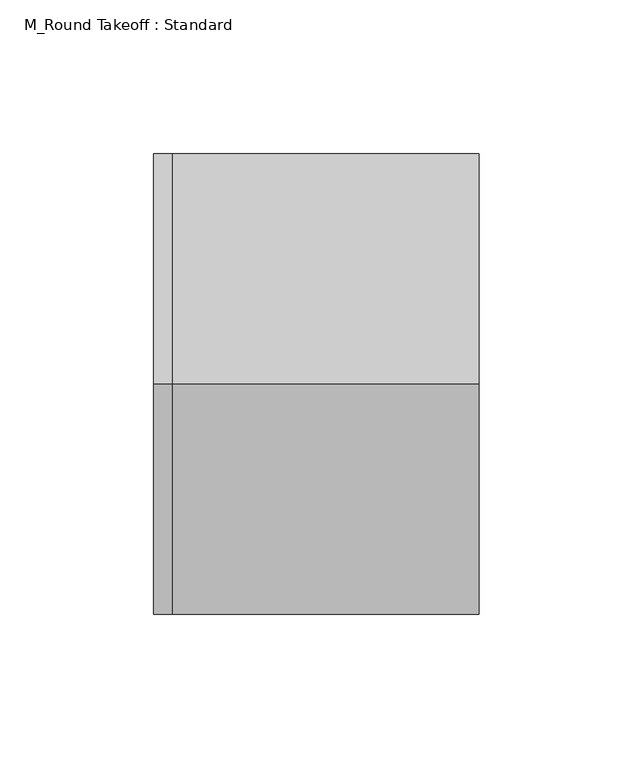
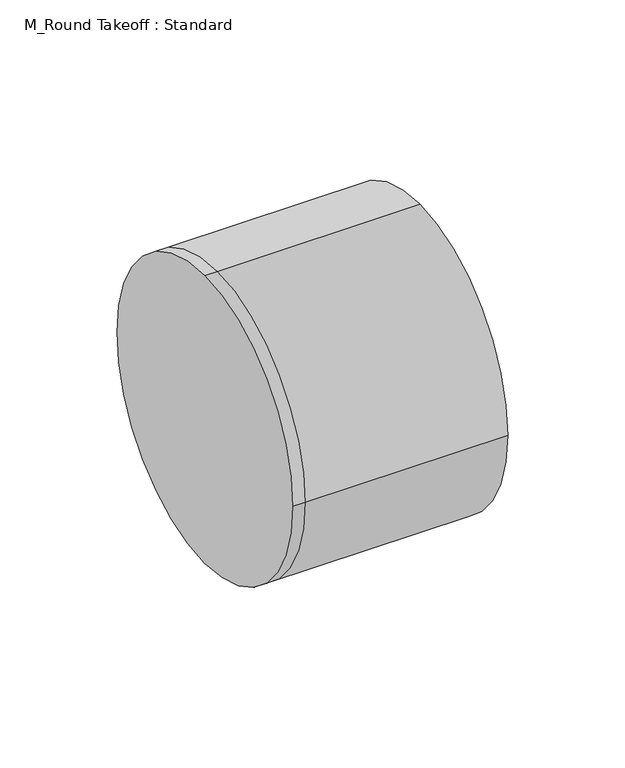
"""IFC4 building model written with IfcOpenShell, lengths in millimetres: duct fitting geometry, M_Round Takeoff : Standard."""

from ifc_helpers import new_model, si_unit, frame, origin, place, context, project, spatial, circle_curve, source, transform, mapped, element, save
from ifc_brep_helpers import plane_surface, cylinder_surface, advanced_brep


def m_round_takeoff_standard_2721f8a4(model_context):
    return source(origin(), model_context, "Body", "AdvancedBrep", [
        advanced_brep(
        [(-6.096, 0.0, 75.0), (-6.096, 75.0, 0.0), (-6.096, 0.0, -75.0), (-6.096, -75.0, 0.0), (0.0, 0.0, 75.0), (0.0, 75.0, 0.0), (0.0, 0.0, -75.0), (0.0, -75.0, 0.0), (100.0, 0.0, 75.0), (100.0, -75.0, 0.0), (100.0, 0.0, -75.0), (100.0, 75.0, 0.0)],
        [
            (0, 1, circle_curve(frame((-6.096, 0.0, 0.0), z_axis=(-1.0, 0.0, 0.0), x_axis=(0.0, 1.0, 0.0)), 75.0)),
            (1, 2, circle_curve(frame((-6.096, 0.0, 0.0), z_axis=(-1.0, 0.0, 0.0), x_axis=(0.0, 1.0, 0.0)), 75.0)),
            (2, 3, circle_curve(frame((-6.096, 0.0, 0.0), z_axis=(-1.0, 0.0, 0.0), x_axis=(0.0, 1.0, 0.0)), 75.0)),
            (3, 0, circle_curve(frame((-6.096, 0.0, 0.0), z_axis=(-1.0, 0.0, 0.0), x_axis=(0.0, 1.0, 0.0)), 75.0)),
            (0, 4),
            (4, 5, circle_curve(frame((0.0, 0.0, 0.0), z_axis=(-1.0, 0.0, 0.0), x_axis=(0.0, 1.0, 0.0)), 75.0)),
            (5, 1),
            (5, 6, circle_curve(frame((0.0, 0.0, 0.0), z_axis=(-1.0, 0.0, 0.0), x_axis=(0.0, 1.0, 0.0)), 75.0)),
            (6, 2),
            (6, 7, circle_curve(frame((0.0, 0.0, 0.0), z_axis=(-1.0, 0.0, 0.0), x_axis=(0.0, 1.0, 0.0)), 75.0)),
            (7, 3),
            (7, 4, circle_curve(frame((0.0, 0.0, 0.0), z_axis=(-1.0, 0.0, 0.0), x_axis=(0.0, 1.0, 0.0)), 75.0)),
            (8, 9, circle_curve(frame((100.0, 0.0, 0.0), z_axis=(1.0, 0.0, 0.0), x_axis=(0.0, 1.0, 0.0)), 75.0)),
            (9, 10, circle_curve(frame((100.0, 0.0, 0.0), z_axis=(1.0, 0.0, 0.0), x_axis=(0.0, 1.0, 0.0)), 75.0)),
            (10, 11, circle_curve(frame((100.0, 0.0, 0.0), z_axis=(1.0, 0.0, 0.0), x_axis=(0.0, 1.0, 0.0)), 75.0)),
            (11, 8, circle_curve(frame((100.0, 0.0, 0.0), z_axis=(1.0, 0.0, 0.0), x_axis=(0.0, 1.0, 0.0)), 75.0)),
            (11, 5),
            (4, 8),
            (10, 6),
            (9, 7),
        ],
        [
            plane_surface(frame((-6.096, 0.0, 0.0), z_axis=(-1.0, 0.0, 0.0), x_axis=(0.0, 0.0, 1.0))),
            cylinder_surface(frame((-6.096, 0.0, 0.0), z_axis=(-1.0, 0.0, 0.0), x_axis=(0.0, 1.0, 0.0)), 75.0),
            plane_surface(frame((100.0, 0.0, 0.0), z_axis=(1.0, 0.0, 0.0), x_axis=(0.0, 0.0, 1.0))),
            cylinder_surface(frame((0.0, 0.0, 0.0), z_axis=(-1.0, 0.0, 0.0), x_axis=(0.0, 1.0, 0.0)), 75.0),
        ],
        [
            (0, [[1, 2, 3, 4]]),
            (1, [[-1, 5, 6, 7]]),
            (1, [[-2, -7, 8, 9]]),
            (1, [[-3, -9, 10, 11]]),
            (1, [[-4, -11, 12, -5]]),
            (2, [[13, 14, 15, 16]]),
            (3, [[-16, 17, -6, 18]]),
            (3, [[-15, 19, -8, -17]]),
            (3, [[-14, 20, -10, -19]]),
            (3, [[-13, -18, -12, -20]]),
        ],
    ),
        advanced_brep(
        [(100.0, 0.0, 75.0), (100.0, -75.0, 0.0), (100.0, 0.0, -75.0), (100.0, 75.0, 0.0), (0.0, 75.0, 0.0), (0.0, 0.0, 75.0), (0.0, 0.0, -75.0), (0.0, -75.0, 0.0), (-6.096, 0.0, 75.0), (-6.096, 75.0, 0.0), (-6.096, 0.0, -75.0), (-6.096, -75.0, 0.0)],
        [
            (0, 1, circle_curve(frame((100.0, 0.0, 0.0), z_axis=(1.0, 0.0, 0.0), x_axis=(0.0, 1.0, 0.0)), 75.0)),
            (1, 2, circle_curve(frame((100.0, 0.0, 0.0), z_axis=(1.0, 0.0, 0.0), x_axis=(0.0, 1.0, 0.0)), 75.0)),
            (2, 3, circle_curve(frame((100.0, 0.0, 0.0), z_axis=(1.0, 0.0, 0.0), x_axis=(0.0, 1.0, 0.0)), 75.0)),
            (3, 0, circle_curve(frame((100.0, 0.0, 0.0), z_axis=(1.0, 0.0, 0.0), x_axis=(0.0, 1.0, 0.0)), 75.0)),
            (3, 4),
            (4, 5, circle_curve(frame((0.0, 0.0, 0.0), z_axis=(1.0, 0.0, 0.0), x_axis=(0.0, 1.0, 0.0)), 75.0)),
            (5, 0),
            (2, 6),
            (6, 4, circle_curve(frame((0.0, 0.0, 0.0), z_axis=(1.0, 0.0, 0.0), x_axis=(0.0, 1.0, 0.0)), 75.0)),
            (1, 7),
            (7, 6, circle_curve(frame((0.0, 0.0, 0.0), z_axis=(1.0, 0.0, 0.0), x_axis=(0.0, 1.0, 0.0)), 75.0)),
            (5, 7, circle_curve(frame((0.0, 0.0, 0.0), z_axis=(1.0, 0.0, 0.0), x_axis=(0.0, 1.0, 0.0)), 75.0)),
            (8, 9, circle_curve(frame((-6.096, 0.0, 0.0), z_axis=(-1.0, 0.0, 0.0), x_axis=(0.0, 1.0, 0.0)), 75.0)),
            (9, 10, circle_curve(frame((-6.096, 0.0, 0.0), z_axis=(-1.0, 0.0, 0.0), x_axis=(0.0, 1.0, 0.0)), 75.0)),
            (10, 11, circle_curve(frame((-6.096, 0.0, 0.0), z_axis=(-1.0, 0.0, 0.0), x_axis=(0.0, 1.0, 0.0)), 75.0)),
            (11, 8, circle_curve(frame((-6.096, 0.0, 0.0), z_axis=(-1.0, 0.0, 0.0), x_axis=(0.0, 1.0, 0.0)), 75.0)),
            (8, 5),
            (4, 9),
            (6, 10),
            (7, 11),
        ],
        [
            plane_surface(frame((100.0, 0.0, 0.0), z_axis=(1.0, 0.0, 0.0), x_axis=(0.0, 0.0, 1.0))),
            cylinder_surface(frame((0.0, 0.0, 0.0), z_axis=(-1.0, 0.0, 0.0), x_axis=(0.0, 1.0, 0.0)), 75.0),
            plane_surface(frame((-6.096, 0.0, 0.0), z_axis=(-1.0, 0.0, 0.0), x_axis=(0.0, 0.0, 1.0))),
            cylinder_surface(frame((-6.096, 0.0, 0.0), z_axis=(-1.0, 0.0, 0.0), x_axis=(0.0, 1.0, 0.0)), 75.0),
        ],
        [
            (0, [[1, 2, 3, 4]]),
            (1, [[-4, 5, 6, 7]]),
            (1, [[-3, 8, 9, -5]]),
            (1, [[-2, 10, 11, -8]]),
            (1, [[-1, -7, 12, -10]]),
            (2, [[13, 14, 15, 16]]),
            (3, [[-13, 17, -6, 18]]),
            (3, [[-14, -18, -9, 19]]),
            (3, [[-15, -19, -11, 20]]),
            (3, [[-16, -20, -12, -17]]),
        ],
    ),
        advanced_brep(
        [(-6.096, 0.0, 75.0), (-6.096, 75.0, 0.0), (-6.096, 0.0, -75.0), (-6.096, -75.0, 0.0), (0.0, 0.0, 75.0), (0.0, 75.0, 0.0), (0.0, 0.0, -75.0), (0.0, -75.0, 0.0), (100.0, 0.0, 75.0), (100.0, -75.0, 0.0), (100.0, 0.0, -75.0), (100.0, 75.0, 0.0)],
        [
            (0, 1, circle_curve(frame((-6.096, 0.0, 0.0), z_axis=(-1.0, 0.0, 0.0), x_axis=(0.0, 1.0, 0.0)), 75.0)),
            (1, 2, circle_curve(frame((-6.096, 0.0, 0.0), z_axis=(-1.0, 0.0, 0.0), x_axis=(0.0, 1.0, 0.0)), 75.0)),
            (2, 3, circle_curve(frame((-6.096, 0.0, 0.0), z_axis=(-1.0, 0.0, 0.0), x_axis=(0.0, 1.0, 0.0)), 75.0)),
            (3, 0, circle_curve(frame((-6.096, 0.0, 0.0), z_axis=(-1.0, 0.0, 0.0), x_axis=(0.0, 1.0, 0.0)), 75.0)),
            (0, 4),
            (4, 5, circle_curve(frame((0.0, 0.0, 0.0), z_axis=(-1.0, 0.0, 0.0), x_axis=(0.0, 1.0, 0.0)), 75.0)),
            (5, 1),
            (5, 6, circle_curve(frame((0.0, 0.0, 0.0), z_axis=(-1.0, 0.0, 0.0), x_axis=(0.0, 1.0, 0.0)), 75.0)),
            (6, 2),
            (6, 7, circle_curve(frame((0.0, 0.0, 0.0), z_axis=(-1.0, 0.0, 0.0), x_axis=(0.0, 1.0, 0.0)), 75.0)),
            (7, 3),
            (7, 4, circle_curve(frame((0.0, 0.0, 0.0), z_axis=(-1.0, 0.0, 0.0), x_axis=(0.0, 1.0, 0.0)), 75.0)),
            (8, 9, circle_curve(frame((100.0, 0.0, 0.0), z_axis=(1.0, 0.0, 0.0), x_axis=(0.0, 1.0, 0.0)), 75.0)),
            (9, 10, circle_curve(frame((100.0, 0.0, 0.0), z_axis=(1.0, 0.0, 0.0), x_axis=(0.0, 1.0, 0.0)), 75.0)),
            (10, 11, circle_curve(frame((100.0, 0.0, 0.0), z_axis=(1.0, 0.0, 0.0), x_axis=(0.0, 1.0, 0.0)), 75.0)),
            (11, 8, circle_curve(frame((100.0, 0.0, 0.0), z_axis=(1.0, 0.0, 0.0), x_axis=(0.0, 1.0, 0.0)), 75.0)),
            (11, 5),
            (4, 8),
            (10, 6),
            (9, 7),
        ],
        [
            plane_surface(frame((-6.096, 0.0, 0.0), z_axis=(-1.0, 0.0, 0.0), x_axis=(0.0, 0.0, 1.0))),
            cylinder_surface(frame((-6.096, 0.0, 0.0), z_axis=(-1.0, 0.0, 0.0), x_axis=(0.0, 1.0, 0.0)), 75.0),
            plane_surface(frame((100.0, 0.0, 0.0), z_axis=(1.0, 0.0, 0.0), x_axis=(0.0, 0.0, 1.0))),
            cylinder_surface(frame((0.0, 0.0, 0.0), z_axis=(-1.0, 0.0, 0.0), x_axis=(0.0, 1.0, 0.0)), 75.0),
        ],
        [
            (0, [[1, 2, 3, 4]]),
            (1, [[-1, 5, 6, 7]]),
            (1, [[-2, -7, 8, 9]]),
            (1, [[-3, -9, 10, 11]]),
            (1, [[-4, -11, 12, -5]]),
            (2, [[13, 14, 15, 16]]),
            (3, [[-16, 17, -6, 18]]),
            (3, [[-15, 19, -8, -17]]),
            (3, [[-14, 20, -10, -19]]),
            (3, [[-13, -18, -12, -20]]),
        ],
    ),
    ])


if __name__ == "__main__":
    model = new_model("IFC4")
    model_context = context("Model", 3, world=origin())
    ifc_project = project(units=[si_unit("LENGTHUNIT", "METRE", prefix="MILLI")], contexts=[model_context])
    site = spatial("IfcSite", under=ifc_project)
    building = spatial("IfcBuilding", under=site)
    placement = place(None, origin())
    m_round_takeoff_standard_shape = m_round_takeoff_standard_2721f8a4(model_context)
    element("IfcDuctFitting", 1, ObjectType="M_Round Takeoff : Standard", at=placement, inside=building, context=model_context, shape_type="MappedRepresentation", body=[
        mapped(m_round_takeoff_standard_shape, transform((0.0, 0.0, 0.0), x_axis=(1.0, 0.0, 0.0), y_axis=(0.0, 1.0, 0.0), z_axis=(0.0, 0.0, 1.0))),
    ])
    save(model, "model.ifc")
